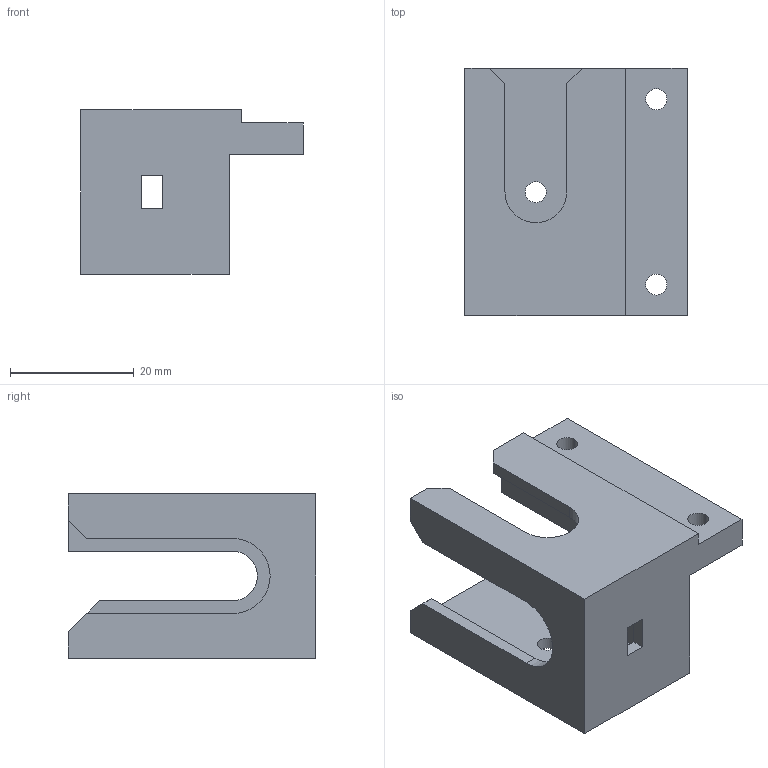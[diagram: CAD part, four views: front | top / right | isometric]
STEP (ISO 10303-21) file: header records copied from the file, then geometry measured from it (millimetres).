
FILE_DESCRIPTION (( 'STEP AP203' ), '1' );
FILE_NAME ('Motor holder right.STEP', '2026-05-01T07:24:13', ( '' ), ( '' ), 'SwSTEP 2.0', 'SolidWorks 2025', '' );
FILE_SCHEMA (( 'CONFIG_CONTROL_DESIGN' ));
Length unit declared in the file: millimetre
Products named in the file (1): Motor holder right
Bounding box: 36 x 40 x 26.65 mm (x, y, z)
Volume: 8774.2 mm3; surface area: 8352.1 mm2
Topology: 1 solids, 1 shells, 51 faces, 141 edges, 94 vertices
Faces by surface type: plane 38, cylinder 13
Entity records: 1714 total; most frequent: CARTESIAN_POINT 287, ORIENTED_EDGE 282, DIRECTION 271, EDGE_CURVE 141, VECTOR 115, LINE 115, VERTEX_POINT 94, AXIS2_PLACEMENT_3D 78
